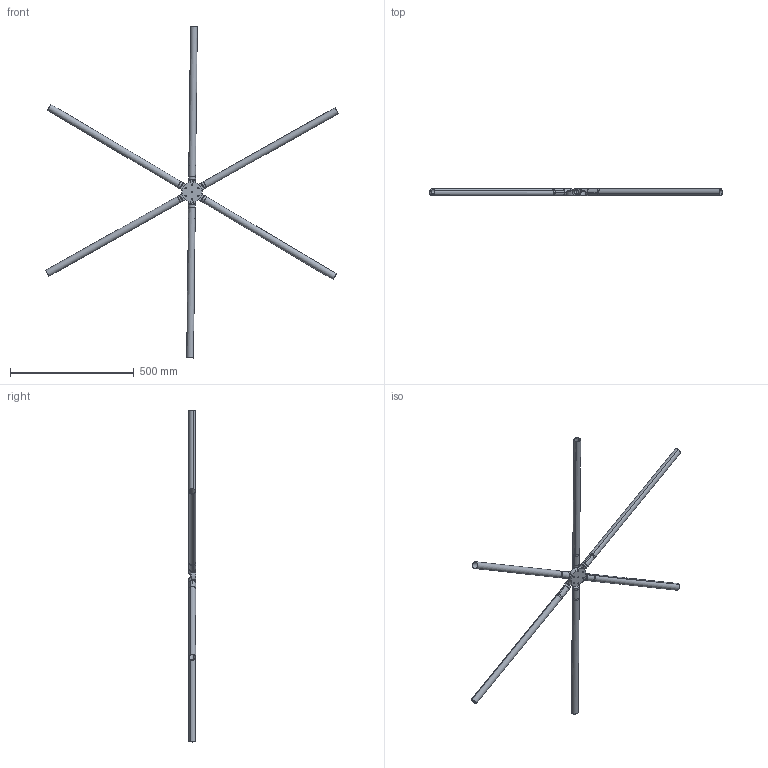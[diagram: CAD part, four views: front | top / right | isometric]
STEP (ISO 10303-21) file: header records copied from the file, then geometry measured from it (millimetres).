
FILE_DESCRIPTION (( 'STEP AP214' ), '1' );
FILE_NAME ('Wheel Connector with Six Single Sided Clevis Connectors Connection.STEP', '2013-08-19T16:15:24', ( 'ydmin' ), ( 'Microsoft' ), 'SwSTEP 2.0', 'SolidWorks 2013', '' );
FILE_SCHEMA (( 'AUTOMOTIVE_DESIGN' ));
Length unit declared in the file: inch
Products named in the file (5): Wheel Connector with Six Single Sided Clevis Connectors Connection; DRP-002-0533-00; DRP-002-0511-00; 6.000 Inch Tube; 91255A542_91255A542
Assembly tree (19 placements, depth 2):
  Wheel Connector with Six Single Sided Clevis Connectors Connection
    DRP-002-0533-00
    DRP-002-0511-00  x6
    6.000 Inch Tube  x6
    91255A542_91255A542  x6
Bounding box: 1182.13 x 30.45 x 1340.9 mm (x, y, z)
Volume: 534877 mm3; surface area: 697835 mm2
Topology: 19 solids, 19 shells, 1348 faces, 2804 edges, 1506 vertices
Faces by surface type: cylinder 592, cone 586, plane 140, sphere 18, torus 12
Entity records: 9173 total; most frequent: CARTESIAN_POINT 3766, DIRECTION 1121, ORIENTED_EDGE 1024, EDGE_CURVE 512, AXIS2_PLACEMENT_3D 450, VERTEX_POINT 281, EDGE_LOOP 265, FACE_OUTER_BOUND 243
